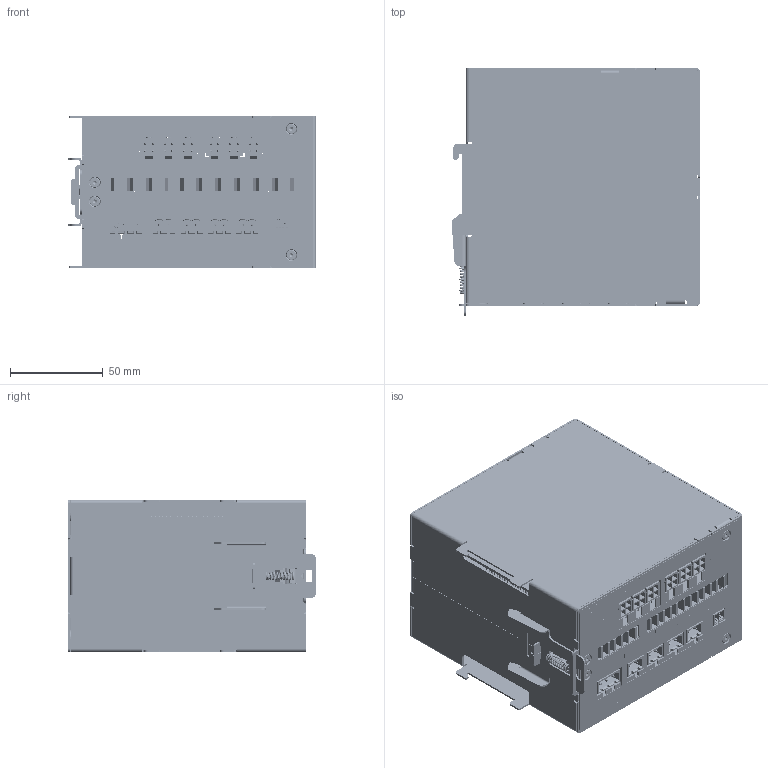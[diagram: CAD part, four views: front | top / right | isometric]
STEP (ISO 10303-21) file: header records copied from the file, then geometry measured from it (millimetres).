
FILE_DESCRIPTION (( 'STEP AP214' ), '1' );
FILE_NAME ('CB-MCMA-01.STEP', '2023-03-01T23:01:21', ( '' ), ( '' ), 'SwSTEP 2.0', 'SolidWorks 2019', '' );
FILE_SCHEMA (( 'AUTOMOTIVE_DESIGN' ));
Length unit declared in the file: millimetre
Products named in the file (1): CB-MCMA-01
Bounding box: 134.17 x 133.9 x 82 mm (x, y, z)
Volume: 184548.6 mm3; surface area: 343167.6 mm2
Topology: 142 solids, 143 shells, 24164 faces, 62539 edges, 40275 vertices
Faces by surface type: plane 18124, cylinder 3683, bspline 2025, cone 252, torus 72, sphere 8
Entity records: 1064583 total; most frequent: CARTESIAN_POINT 263365, ORIENTED_EDGE 124998, DIRECTION 110302, EDGE_CURVE 62499, LINE 49872, VECTOR 49872, VERTEX_POINT 40280, AXIS2_PLACEMENT_3D 30215
